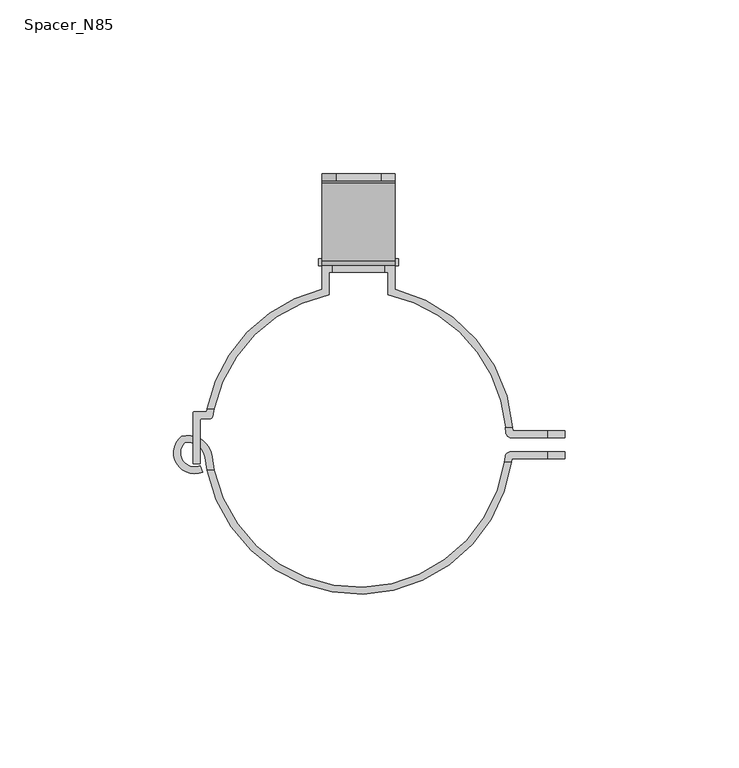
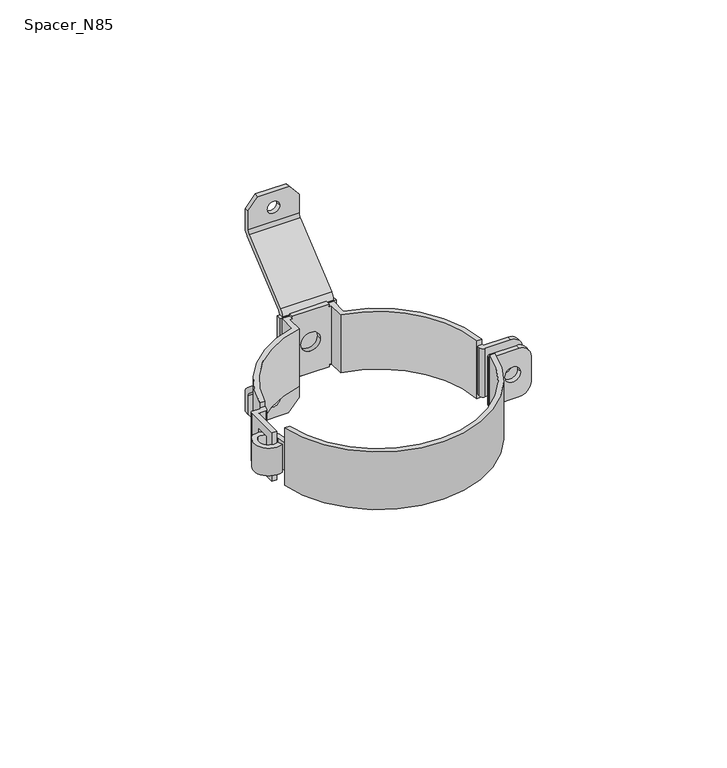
"""IFC4 building model written with IfcOpenShell, lengths in millimetres: proxy geometry, GROVIK_Downpipe_Bracket : Spacer_N85."""

import ifcopenshell
import ifcopenshell.guid

model = None  # the IFC model being written
_history = None  # IfcOwnerHistory: only IFC2X3 demands one
_inside = {}  # id of a spatial element -> (the spatial element, [elements in it])
_under = {}  # id of a project, library or spatial element -> (it, [spatial elements below it])
_declared = {}  # id of a project -> (the project, [libraries it declares])
_typed = {}  # id of a type object -> (the type object, [elements of that type])
_made_of = {}  # id of a material, layer set ... -> (it, [elements and type objects made of it])


def new_model(schema):
    """Start an empty IFC model of exactly this schema.

    Asked for "IFC4X3", IfcOpenShell would pick the latest addendum, in which some entities
    have other attributes; the version numbers below select the first issue.
    IFC2X3 requires an IfcOwnerHistory on every rooted entity: one is made here for all.
    """
    global model, _history
    if schema == "IFC4X3":
        model = ifcopenshell.file(schema_version=(4, 3, 0, 0))
    else:
        model = ifcopenshell.file(schema=schema)
    _inside.clear()
    _under.clear()
    _declared.clear()
    _typed.clear()
    _made_of.clear()
    _history = None
    if model.schema == "IFC2X3":
        org = make("IfcOrganization", Name="unknown")
        user = make(
            "IfcPersonAndOrganization",
            ThePerson=make("IfcPerson", FamilyName="unknown"),
            TheOrganization=org,
        )
        app = make(
            "IfcApplication",
            ApplicationDeveloper=org,
            Version="unknown",
            ApplicationFullName="unknown",
            ApplicationIdentifier="unknown",
        )
        _history = make(
            "IfcOwnerHistory",
            OwningUser=user,
            OwningApplication=app,
            ChangeAction="ADDED",
            CreationDate=0,
        )
    return model


def make(cls, **values):
    """One entity of the class cls with the attributes given. An attribute that is None is left unset."""
    return model.create_entity(
        cls, **{name: value for name, value in values.items() if value is not None}
    )


def rooted(cls, **values):
    """An entity with a GlobalId (a new one), such as an element, a storey or a relation."""
    return make(cls, GlobalId=ifcopenshell.guid.new(), OwnerHistory=_history, **values)


def si_unit(unit_type, name, prefix=None):
    """IfcSIUnit, for example si_unit("LENGTHUNIT", "METRE", prefix="MILLI")."""
    return make("IfcSIUnit", UnitType=unit_type, Prefix=prefix, Name=name)


def assignment(units):
    """IfcUnitAssignment: the units of a project."""
    return None if units is None else make("IfcUnitAssignment", Units=units)


def point(xyz):
    """IfcCartesianPoint."""
    return None if xyz is None else make("IfcCartesianPoint", Coordinates=xyz)


def direction(xyz):
    """IfcDirection."""
    return None if xyz is None else make("IfcDirection", DirectionRatios=xyz)


def frame(location, z_axis=None, x_axis=None):
    """IfcAxis2Placement3D, a coordinate frame: its origin and axes. An axis left out is left unset."""
    return make(
        "IfcAxis2Placement3D",
        Location=point(location),
        Axis=direction(z_axis),
        RefDirection=direction(x_axis),
    )


def origin():
    """The frame at (0, 0, 0) with its axes left unset."""
    return frame((0.0, 0.0, 0.0))


def origin_with_axes():
    """The frame at (0, 0, 0) with the z axis (0, 0, 1) and the x axis (1, 0, 0) written out."""
    return frame((0.0, 0.0, 0.0), z_axis=(0.0, 0.0, 1.0), x_axis=(1.0, 0.0, 0.0))


def place(relative_to, where):
    """IfcLocalPlacement: puts the frame where relative to a parent placement (None: the world)."""
    return make(
        "IfcLocalPlacement", PlacementRelTo=relative_to, RelativePlacement=where
    )


def context(
    kind, dimensions, precision=None, world=None, true_north=None, identifier=None
):
    """IfcGeometricRepresentationContext, for example the 3D "Model" context."""
    return make(
        "IfcGeometricRepresentationContext",
        ContextIdentifier=identifier,
        ContextType=kind,
        CoordinateSpaceDimension=dimensions,
        Precision=precision,
        WorldCoordinateSystem=world,
        TrueNorth=true_north,
    )


def project(units=None, contexts=None):
    """IfcProject with its units and contexts."""
    return rooted(
        "IfcProject",
        Name="project",
        RepresentationContexts=contexts,
        UnitsInContext=assignment(units),
    )


def spatial(cls, under=None, at=None, **own):
    """A site, building, storey or space (cls), placed at a placement, below another one or the project."""
    s = rooted(cls, ObjectPlacement=at, **own)
    if under is not None:
        _under.setdefault(under.id(), (under, []))[1].append(s)
    return s


def polyline(points):
    """IfcPolyline through the points."""
    return make("IfcPolyline", Points=[point(p) for p in points])


def circle_curve(where, radius):
    """IfcCircle in the frame where."""
    return make("IfcCircle", Position=where, Radius=radius)


def outline(outer, holes=None, kind="AREA"):
    """IfcArbitraryClosedProfileDef: a profile drawn as a closed curve; with holes, ...WithVoids."""
    if holes is None:
        return make("IfcArbitraryClosedProfileDef", ProfileType=kind, OuterCurve=outer)
    return make(
        "IfcArbitraryProfileDefWithVoids",
        ProfileType=kind,
        OuterCurve=outer,
        InnerCurves=holes,
    )


def extrude(swept, where, along, depth):
    """IfcExtrudedAreaSolid: the profile swept, set in the frame where, extruded along a direction by depth."""
    return make(
        "IfcExtrudedAreaSolid",
        SweptArea=swept,
        Position=where,
        ExtrudedDirection=direction(along),
        Depth=depth,
    )


def shape(context_of_items, identifier, shape_type, items):
    """IfcShapeRepresentation: the items that make up one representation, for example the "Body"."""
    return make(
        "IfcShapeRepresentation",
        ContextOfItems=context_of_items,
        RepresentationIdentifier=identifier,
        RepresentationType=shape_type,
        Items=items,
    )


def source(mapping_origin, context_of_items, identifier, shape_type, items):
    """IfcRepresentationMap: a shape defined once, which mapped items show again and again."""
    return make(
        "IfcRepresentationMap",
        MappingOrigin=mapping_origin,
        MappedRepresentation=shape(context_of_items, identifier, shape_type, items),
    )


def transform(
    local_origin,
    x_axis=None,
    y_axis=None,
    z_axis=None,
    scale=None,
    scale2=None,
    scale3=None,
    uniform=True,
):
    """IfcCartesianTransformationOperator3D, or its non-uniform kind. x_axis, y_axis, z_axis: its Axis1, 2, 3."""
    if uniform:
        return make(
            "IfcCartesianTransformationOperator3D",
            Axis1=direction(x_axis),
            Axis2=direction(y_axis),
            LocalOrigin=point(local_origin),
            Scale=scale,
            Axis3=direction(z_axis),
        )
    return make(
        "IfcCartesianTransformationOperator3DnonUniform",
        Axis1=direction(x_axis),
        Axis2=direction(y_axis),
        LocalOrigin=point(local_origin),
        Scale=scale,
        Axis3=direction(z_axis),
        Scale2=scale2,
        Scale3=scale3,
    )


def mapped(mapping_source, mapping_target):
    """IfcMappedItem: shows the shape of a source again, moved by a transform."""
    return make(
        "IfcMappedItem", MappingSource=mapping_source, MappingTarget=mapping_target
    )


def made_of(thing, what):
    """Note that an element or type object is made of a material, layer set ...; save() writes the relation."""
    if what is not None:
        _made_of.setdefault(what.id(), (what, []))[1].append(thing)
    return thing


def element(
    cls,
    number,
    at=None,
    inside=None,
    cuts=None,
    type_object=None,
    material=None,
    context=None,
    identifier="Body",
    shape_type=None,
    held_by="IfcProductDefinitionShape",
    body=None,
    shapes=None,
    **own,
):
    """One element of the class cls, such as IfcWall. Its Tag is "e" and its number.

    at: its placement. inside: the storey or other place that contains it. cuts: it is an
    opening in that element (IfcRelVoidsElement). A single representation is given by context,
    identifier, shape_type and body (its items); several are given by shapes. held_by: the class
    of the entity that holds the representations. save() writes the other relations.
    """
    e = rooted(cls, Tag="e%d" % number, ObjectPlacement=at, **own)
    if body is not None:
        shapes = [shape(context, identifier, shape_type, body)]
    if shapes is not None:
        e.Representation = make(held_by, Representations=shapes)
    if inside is not None:
        _inside.setdefault(inside.id(), (inside, []))[1].append(e)
    if cuts is not None:
        rooted(
            "IfcRelVoidsElement", RelatingBuildingElement=cuts, RelatedOpeningElement=e
        )
    if type_object is not None:
        _typed.setdefault(type_object.id(), (type_object, []))[1].append(e)
    return made_of(e, material)


def aggregate(whole, parts):
    """IfcRelAggregates: a whole, such as a stair, and the parts it consists of."""
    return rooted("IfcRelAggregates", RelatingObject=whole, RelatedObjects=parts)


def save(model, path):
    """Write the relations noted so far, then the file.

    IfcRelAggregates (storeys below a building ...), IfcRelContainedInSpatialStructure (elements
    in a storey), IfcRelDefinesByType, IfcRelAssociatesMaterial and IfcRelDeclares: one each for
    every whole, place, type object, material and project.
    """
    for whole, parts in _under.values():
        aggregate(whole, parts)
    for where, things in _inside.values():
        rooted(
            "IfcRelContainedInSpatialStructure",
            RelatedElements=things,
            RelatingStructure=where,
        )
    for kind, things in _typed.values():
        rooted("IfcRelDefinesByType", RelatedObjects=things, RelatingType=kind)
    for what, things in _made_of.values():
        rooted("IfcRelAssociatesMaterial", RelatedObjects=things, RelatingMaterial=what)
    for by, libraries in _declared.values():
        rooted("IfcRelDeclares", RelatingContext=by, RelatedDefinitions=libraries)
    model.write(path)


def plane_surface(at):
    """IfcPlane: the flat surface through the origin of the frame at, square to its z axis."""
    return make("IfcPlane", Position=at)


def cylinder_surface(at, radius):
    """IfcCylindricalSurface: all points at the distance radius from the z axis of the frame at."""
    return make("IfcCylindricalSurface", Position=at, Radius=radius)


def revolved_surface(curve, axis_point, axis_direction):
    """IfcSurfaceOfRevolution: the curve turned about the line through axis_point along axis_direction."""
    return make(
        "IfcSurfaceOfRevolution",
        SweptCurve=make("IfcArbitraryOpenProfileDef", ProfileType="CURVE", Curve=curve),
        AxisPosition=make("IfcAxis1Placement", Location=point(axis_point), Axis=direction(axis_direction)),
    )


def advanced_brep(points, edges, surfaces, faces):
    """IfcAdvancedBrep: a solid bounded by faces that lie on surfaces and meet in shared edges.

    An edge is (start, end): straight between two places in points (the first is 0);
    or (start, end, curve); or (start, end, curve, False) where it runs against its curve.
    A face is (place in surfaces, loops), or (place, loops, False) where it looks against
    its surface's normal. A loop lists edges by number (the first is 1), with a minus sign
    where the edge is run from its end to its start. The first loop is the outer one.
    """
    corners = [point(p) for p in points]
    vertices = [make("IfcVertexPoint", VertexGeometry=c) for c in corners]
    made = []
    for start, end, *more in edges:
        made.append(
            make(
                "IfcEdgeCurve",
                EdgeStart=vertices[start],
                EdgeEnd=vertices[end],
                EdgeGeometry=more[0] if more else make("IfcPolyline", Points=[corners[start], corners[end]]),
                SameSense=more[1] if len(more) > 1 else True,
            )
        )
    hull = []
    for where, loops, *sense in faces:
        bounds = []
        for j, loop in enumerate(loops):
            ring = [make("IfcOrientedEdge", EdgeElement=made[abs(k) - 1], Orientation=k > 0) for k in loop]
            bounds.append(
                make(
                    "IfcFaceOuterBound" if j == 0 else "IfcFaceBound",
                    Bound=make("IfcEdgeLoop", EdgeList=ring),
                    Orientation=True,
                )
            )
        hull.append(make("IfcAdvancedFace", Bounds=bounds, FaceSurface=surfaces[where], SameSense=sense[0] if sense else True))
    return make("IfcAdvancedBrep", Outer=make("IfcClosedShell", CfsFaces=hull))


def spacer_n85_8d13b293(model_context):
    return source(origin(), model_context, "Body", "SolidModel", [
        advanced_brep(
        [(-41.5674924, -8.8540146, 12.5), (-43.6102789, -8.8540146, 12.5), (44.0306629, -6.4459854, 12.5), (42.0083238, -6.4459854, 12.5), (-41.5674924, -8.8540146, -12.5), (42.0083238, -6.4459854, -12.5), (44.0306629, -6.4459854, -12.5), (-43.6102789, -8.8540146, -12.5)],
        [
            (0, 1),
            (1, 2, circle_curve(frame((0.0, 0.0, 12.5), z_axis=(0.0, 0.0, 1.0), x_axis=(1.0, 0.0, 0.0)), 44.5)),
            (2, 3),
            (3, 0, circle_curve(frame((0.0, 0.0, 12.5), z_axis=(0.0, 0.0, -1.0), x_axis=(1.0, 0.0, 0.0)), 42.5)),
            (4, 5, circle_curve(frame((0.0, 0.0, -12.5), z_axis=(0.0, 0.0, 1.0), x_axis=(1.0, 0.0, 0.0)), 42.5)),
            (5, 6),
            (6, 7, circle_curve(frame((0.0, 0.0, -12.5), z_axis=(0.0, 0.0, -1.0), x_axis=(1.0, 0.0, 0.0)), 44.5)),
            (7, 4),
            (0, 4),
            (7, 1),
            (6, 2),
            (5, 3),
        ],
        [
            plane_surface(frame((-41.5674924, -8.8540146, 12.5), z_axis=(0.0, 0.0, 1.0), x_axis=(-1.0, 0.0, 0.0))),
            plane_surface(frame((-41.5674924, -8.8540146, -12.5), z_axis=(0.0, 0.0, -1.0), x_axis=(1.0, 0.0, 0.0))),
            plane_surface(frame((-41.5674924, -8.8540146, 12.5), z_axis=(0.0, 1.0, 0.0), x_axis=(0.0, 0.0, -1.0))),
            cylinder_surface(frame((0.0, 0.0, -12.5), z_axis=(0.0, 0.0, 1.0), x_axis=(1.0, 0.0, 0.0)), 44.5),
            plane_surface(frame((44.0306629, -6.4459854, 12.5), z_axis=(0.0, 1.0, 0.0), x_axis=(0.0, 0.0, -1.0))),
            revolved_surface(polyline([(42.5, 0.0, -12.5), (42.5, 0.0, 12.5)]), (0.0, 0.0, -12.5), (0.0, 0.0, -1.0)),
        ],
        [
            (0, [[1, 2, 3, 4]]),
            (1, [[5, 6, 7, 8]]),
            (2, [[-1, 9, -8, 10]]),
            (3, [[-2, -10, -7, 11]]),
            (4, [[-3, -11, -6, 12]]),
            (5, [[-4, -12, -5, -9]]),
        ],
    ),
        advanced_brep(
        [(-8.5, 41.6413256, 12.5), (-8.5, 48.1, 12.5), (-7.5, 48.1, 12.5), (-7.5, 50.1, 12.5), (-10.5, 50.1, 12.5), (-10.5, 43.2434966, 12.5), (-43.6102789, 8.8540146, 12.5), (-41.5674924, 8.8540146, 12.5), (8.5, 48.1, 12.5), (8.5, 41.6413256, 12.5), (42.3511391, 3.5540146, 12.5), (44.3578514, 3.5540146, 12.5), (10.5, 43.2434966, 12.5), (10.5, 50.1, 12.5), (7.5, 50.1, 12.5), (7.5, 48.1, 12.5), (-8.5, 41.6413256, -12.5), (-41.5674924, 8.8540146, -12.5), (-43.6102789, 8.8540146, -12.5), (-10.5, 43.2434966, -12.5), (-10.5, 50.1, -12.5), (-7.5, 50.1, -12.5), (-7.5, 48.1, -12.5), (-8.5, 48.1, -12.5), (10.5, 50.1, -12.5), (10.5, 43.2434966, -12.5), (44.3578514, 3.5540146, -12.5), (42.3511391, 3.5540146, -12.5), (8.5, 41.6413256, -12.5), (8.5, 48.1, -12.5), (7.5, 48.1, -12.5), (7.5, 50.1, -12.5), (-7.5, 48.1, -13.4422023), (7.5, 48.1, -13.4422023), (7.5, 48.1, 13.5577977), (-7.5, 48.1, 13.5577977), (-4.0, 48.1, 0.0), (4.0, 48.1, 0.0), (7.5, 50.1, -13.4422023), (-7.5, 50.1, -13.4422023), (-7.5, 50.1, 13.5577977), (7.5, 50.1, 13.5577977), (4.0, 50.1, 0.0), (-4.0, 50.1, 0.0)],
        [
            (0, 1),
            (1, 2),
            (2, 3),
            (3, 4),
            (4, 5),
            (5, 6, circle_curve(frame((0.0, 0.0, 12.5), z_axis=(0.0, 0.0, 1.0), x_axis=(1.0, 0.0, 0.0)), 44.5)),
            (6, 7),
            (7, 0, circle_curve(frame((0.0, 0.0, 12.5), z_axis=(0.0, 0.0, -1.0), x_axis=(1.0, 0.0, 0.0)), 42.5)),
            (8, 9),
            (9, 10, circle_curve(frame((0.0, 0.0, 12.5), z_axis=(0.0, 0.0, -1.0), x_axis=(1.0, 0.0, 0.0)), 42.5)),
            (10, 11),
            (11, 12, circle_curve(frame((0.0, 0.0, 12.5), z_axis=(0.0, 0.0, 1.0), x_axis=(1.0, 0.0, 0.0)), 44.5)),
            (12, 13),
            (13, 14),
            (14, 15),
            (15, 8),
            (16, 17, circle_curve(frame((0.0, 0.0, -12.5), z_axis=(0.0, 0.0, 1.0), x_axis=(1.0, 0.0, 0.0)), 42.5)),
            (17, 18),
            (18, 19, circle_curve(frame((0.0, 0.0, -12.5), z_axis=(0.0, 0.0, -1.0), x_axis=(1.0, 0.0, 0.0)), 44.5)),
            (19, 20),
            (20, 21),
            (21, 22),
            (22, 23),
            (23, 16),
            (24, 25),
            (25, 26, circle_curve(frame((0.0, 0.0, -12.5), z_axis=(0.0, 0.0, -1.0), x_axis=(1.0, 0.0, 0.0)), 44.5)),
            (26, 27),
            (27, 28, circle_curve(frame((0.0, 0.0, -12.5), z_axis=(0.0, 0.0, 1.0), x_axis=(1.0, 0.0, 0.0)), 42.5)),
            (28, 29),
            (29, 30),
            (30, 31),
            (31, 24),
            (10, 27),
            (26, 11),
            (5, 19),
            (18, 6),
            (17, 7),
            (16, 0),
            (23, 1),
            (22, 32),
            (32, 33),
            (33, 30),
            (29, 8),
            (15, 34),
            (34, 35),
            (35, 2),
            (36, 37, circle_curve(frame((0.0, 48.1, 0.0), z_axis=(0.0, 1.0, 0.0), x_axis=(-1.0, 0.0, 0.0)), 4.0)),
            (37, 36, circle_curve(frame((0.0, 48.1, 0.0), z_axis=(0.0, 1.0, 0.0), x_axis=(-1.0, 0.0, 0.0)), 4.0)),
            (28, 9),
            (25, 12),
            (24, 13),
            (31, 38),
            (38, 39),
            (39, 21),
            (20, 4),
            (3, 40),
            (40, 41),
            (41, 14),
            (42, 43, circle_curve(frame((0.0, 50.1, 0.0), z_axis=(0.0, -1.0, 0.0), x_axis=(-1.0, 0.0, 0.0)), 4.0)),
            (43, 42, circle_curve(frame((0.0, 50.1, 0.0), z_axis=(0.0, -1.0, 0.0), x_axis=(-1.0, 0.0, 0.0)), 4.0)),
            (42, 37),
            (36, 43),
            (34, 41),
            (40, 35),
            (33, 38),
            (39, 32),
        ],
        [
            plane_surface(frame((-41.5674924, -8.8540146, 12.5), z_axis=(0.0, 0.0, 1.0), x_axis=(-1.0, 0.0, 0.0))),
            plane_surface(frame((-41.5674924, -8.8540146, -12.5), z_axis=(0.0, 0.0, -1.0), x_axis=(1.0, 0.0, 0.0))),
            plane_surface(frame((42.3511391, 3.5540146, 12.5), z_axis=(0.0, -1.0, 0.0), x_axis=(0.0, 0.0, -1.0))),
            cylinder_surface(origin_with_axes(), 44.5),
            plane_surface(frame((-43.6102789, 8.8540146, 12.5), z_axis=(0.0, -1.0, 0.0), x_axis=(0.0, 0.0, -1.0))),
            revolved_surface(polyline([(42.5, 0.0, -12.5), (42.5, 0.0, 12.5)]), (0.0, 0.0, 0.0), (0.0, 0.0, -1.0)),
            plane_surface(frame((-8.5, 41.6413256, 12.5), z_axis=(1.0, 0.0, 0.0), x_axis=(0.0, 0.0, -1.0))),
            plane_surface(frame((-8.5, 48.1, 12.5), z_axis=(0.0, -1.0, 0.0), x_axis=(0.0, 0.0, -1.0))),
            plane_surface(frame((8.5, 48.1, 12.5), z_axis=(-1.0, 0.0, 0.0), x_axis=(0.0, 0.0, -1.0))),
            plane_surface(frame((10.5, 43.2434966, 12.5), z_axis=(1.0, 0.0, 0.0), x_axis=(0.0, 0.0, -1.0))),
            plane_surface(frame((10.5, 50.1, 12.5), z_axis=(0.0, 1.0, 0.0), x_axis=(0.0, 0.0, -1.0))),
            plane_surface(frame((-10.5, 50.1, 12.5), z_axis=(-1.0, 0.0, 0.0), x_axis=(0.0, 0.0, -1.0))),
            revolved_surface(polyline([(-4.0, 50.1, 0.0), (-4.0, 48.1, 0.0)]), (0.0, 48.1, 0.0), (0.0, 1.0, 0.0)),
            plane_surface(frame((7.5, 48.1, 13.5577977), z_axis=(0.0, 0.0, 1.0), x_axis=(0.0, 1.0, 0.0))),
            plane_surface(frame((-7.5, 48.1, 13.5577977), z_axis=(-1.0, 0.0, 0.0), x_axis=(0.0, 1.0, 0.0))),
            plane_surface(frame((7.5, 48.1, 12.5), z_axis=(1.0, 0.0, 0.0), x_axis=(0.0, 1.0, 0.0))),
            plane_surface(frame((7.5, 48.1, -13.4422023), z_axis=(1.0, 0.0, 0.0), x_axis=(0.0, 1.0, 0.0))),
            plane_surface(frame((-7.5, 48.1, -12.5), z_axis=(-1.0, 0.0, 0.0), x_axis=(0.0, 1.0, 0.0))),
            plane_surface(frame((-7.5, 48.1, -13.4422023), z_axis=(0.0, 0.0, -1.0), x_axis=(0.0, 1.0, 0.0))),
        ],
        [
            (0, [[1, 2, 3, 4, 5, 6, 7, 8]]),
            (0, [[9, 10, 11, 12, 13, 14, 15, 16]]),
            (1, [[17, 18, 19, 20, 21, 22, 23, 24]]),
            (1, [[25, 26, 27, 28, 29, 30, 31, 32]]),
            (2, [[-11, 33, -27, 34]]),
            (3, [[-6, 35, -19, 36]]),
            (4, [[-7, -36, -18, 37]]),
            (5, [[-8, -37, -17, 38]]),
            (6, [[-1, -38, -24, 39]]),
            (7, [[-39, -23, 40, 41, 42, -30, 43, -16, 44, 45, 46, -2], [47, 48]]),
            (8, [[-9, -43, -29, 49]]),
            (5, [[-10, -49, -28, -33]]),
            (3, [[-12, -34, -26, 50]]),
            (9, [[-13, -50, -25, 51]]),
            (10, [[-51, -32, 52, 53, 54, -21, 55, -4, 56, 57, 58, -14], [59, 60]]),
            (11, [[-5, -55, -20, -35]]),
            (12, [[61, -47, 62, -59]]),
            (12, [[-61, -60, -62, -48]]),
            (13, [[-45, 63, -57, 64]]),
            (14, [[-46, -64, -56, -3]]),
            (15, [[-44, -15, -58, -63]]),
            (16, [[-42, 65, -52, -31]]),
            (17, [[-40, -22, -54, 66]]),
            (18, [[-41, -66, -53, -65]]),
        ],
    ),
        advanced_brep(
        [(-45.7025365, -6.9459854, 10.5577977), (-45.7025365, 5.5540146, 10.5577977), (-45.2025365, 6.0540146, 10.5577977), (-42.6619767, 6.0540146, 10.5577977), (-42.0921477, 6.5258716, 10.5577977), (-41.5674924, 8.8540146, 10.5577977), (-43.6102789, 8.8540146, 10.5577977), (-43.7650871, 8.0540146, 10.5577977), (-47.1625365, 8.0540146, 10.5577977), (-47.7025365, 7.5140146, 10.5577977), (-47.7025365, -6.9459854, 10.5577977), (-45.7025365, -6.9459854, -10.4422023), (-47.7025365, -6.9459854, -10.4422023), (-47.7025365, 7.5140146, -10.4422023), (-47.1625365, 8.0540146, -10.4422023), (-43.7650871, 8.0540146, -10.4422023), (-43.6102789, 8.8540146, -10.4422023), (-41.5674924, 8.8540146, -10.4422023), (-42.0921477, 6.5258716, -10.4422023), (-42.6619767, 6.0540146, -10.4422023), (-45.2025365, 6.0540146, -10.4422023), (-45.7025365, 5.5540146, -10.4422023), (-45.7025365, -2.9459854, 6.5577977), (-45.7025365, 2.5540146, 6.5577977), (-45.7025365, 2.5540146, -6.4422023), (-45.7025365, -2.9459854, -6.4422023), (-47.7025365, 2.5540146, 6.5577977), (-47.7025365, -2.9459854, 6.5577977), (-47.7025365, -2.9459854, -6.4422023), (-47.7025365, 2.5540146, -6.4422023)],
        [
            (0, 1),
            (1, 2, circle_curve(frame((-45.2025365, 5.5540146, 10.5577977), z_axis=(0.0, 0.0, -1.0), x_axis=(1.0, 0.0, 0.0)), 0.5)),
            (2, 3),
            (3, 4, circle_curve(frame((-42.6619767, 6.6340146, 10.5577977), z_axis=(0.0, 0.0, 1.0), x_axis=(1.0, 0.0, 0.0)), 0.58)),
            (4, 5, circle_curve(frame((-7.705915, 0.0, 10.5577977), z_axis=(0.0, 0.0, -1.0), x_axis=(1.0, 0.0, 0.0)), 35.0)),
            (5, 6),
            (6, 7, circle_curve(frame((0.0, 0.0, 10.5577977), z_axis=(0.0, 0.0, 1.0), x_axis=(1.0, 0.0, 0.0)), 44.5)),
            (7, 8),
            (8, 9, circle_curve(frame((-47.1625365, 7.5140146, 10.5577977), z_axis=(0.0, 0.0, 1.0), x_axis=(1.0, 0.0, 0.0)), 0.54)),
            (9, 10),
            (10, 0),
            (11, 12),
            (12, 13),
            (13, 14, circle_curve(frame((-47.1625365, 7.5140146, -10.4422023), z_axis=(0.0, 0.0, -1.0), x_axis=(1.0, 0.0, 0.0)), 0.54)),
            (14, 15),
            (15, 16, circle_curve(frame((0.0, 0.0, -10.4422023), z_axis=(0.0, 0.0, -1.0), x_axis=(1.0, 0.0, 0.0)), 44.5)),
            (16, 17),
            (17, 18, circle_curve(frame((-7.705915, 0.0, -10.4422023), z_axis=(0.0, 0.0, 1.0), x_axis=(1.0, 0.0, 0.0)), 35.0)),
            (18, 19, circle_curve(frame((-42.6619767, 6.6340146, -10.4422023), z_axis=(0.0, 0.0, -1.0), x_axis=(1.0, 0.0, 0.0)), 0.58)),
            (19, 20),
            (20, 21, circle_curve(frame((-45.2025365, 5.5540146, -10.4422023), z_axis=(0.0, 0.0, 1.0), x_axis=(1.0, 0.0, 0.0)), 0.5)),
            (21, 11),
            (0, 11),
            (21, 1),
            (22, 23),
            (23, 24),
            (24, 25),
            (25, 22),
            (20, 2),
            (19, 3),
            (18, 4),
            (17, 5),
            (16, 6),
            (7, 15),
            (14, 8),
            (13, 9),
            (12, 10),
            (26, 27),
            (27, 28),
            (28, 29),
            (29, 26),
            (26, 23),
            (22, 27),
            (29, 24),
            (28, 25),
        ],
        [
            plane_surface(frame((-45.7025365, -6.9459854, 10.5577977), z_axis=(0.0, 0.0, 1.0), x_axis=(0.0, 1.0, 0.0))),
            plane_surface(frame((-45.7025365, -6.9459854, -10.4422023), z_axis=(0.0, 0.0, -1.0), x_axis=(0.0, -1.0, 0.0))),
            plane_surface(frame((-45.7025365, -6.9459854, 10.5577977), z_axis=(1.0, 0.0, 0.0), x_axis=(0.0, 0.0, -1.0))),
            revolved_surface(polyline([(-44.7025365, 5.5540146, -10.4422023), (-44.7025365, 5.5540146, 10.5577977)]), (-45.2025365, 5.5540146, -10.4422023), (0.0, 0.0, -1.0)),
            plane_surface(frame((-45.2025365, 6.0540146, 10.5577977), z_axis=(0.0, -1.0, 0.0), x_axis=(0.0, 0.0, -1.0))),
            cylinder_surface(frame((-42.6619767, 6.6340146, -10.4422023), z_axis=(0.0, 0.0, 1.0), x_axis=(1.0, 0.0, 0.0)), 0.58),
            revolved_surface(polyline([(27.294085, 0.0, -10.4422023), (27.294085, 0.0, 10.5577977)]), (-7.705915, 0.0, -10.4422023), (0.0, 0.0, -1.0)),
            plane_surface(frame((-41.5674924, 8.8540146, 10.5577977), z_axis=(0.0, 1.0, 0.0), x_axis=(0.0, 0.0, -1.0))),
            plane_surface(frame((-43.7650871, 8.0540146, 10.5577977), z_axis=(0.0, 1.0, 0.0), x_axis=(0.0, 0.0, -1.0))),
            cylinder_surface(frame((-47.1625365, 7.5140146, -10.4422023), z_axis=(0.0, 0.0, 1.0), x_axis=(1.0, 0.0, 0.0)), 0.54),
            plane_surface(frame((-47.7025365, 7.5140146, 10.5577977), z_axis=(-1.0, 0.0, 0.0), x_axis=(0.0, 0.0, -1.0))),
            plane_surface(frame((-47.7025365, -6.9459854, 10.5577977), z_axis=(0.0, -1.0, 0.0), x_axis=(0.0, 0.0, -1.0))),
            plane_surface(frame((-47.7025365, -2.9459854, 6.5577977), z_axis=(0.0, 0.0, -1.0), x_axis=(1.0, 0.0, 0.0))),
            plane_surface(frame((-47.7025365, 2.5540146, 6.5577977), z_axis=(0.0, -1.0, 0.0), x_axis=(1.0, 0.0, 0.0))),
            plane_surface(frame((-47.7025365, 2.5540146, -6.4422023), z_axis=(0.0, 0.0, 1.0), x_axis=(1.0, 0.0, 0.0))),
            plane_surface(frame((-47.7025365, -2.9459854, -6.4422023), z_axis=(0.0, 1.0, 0.0), x_axis=(1.0, 0.0, 0.0))),
            cylinder_surface(frame((0.0, 0.0, -10.4422023), z_axis=(0.0, 0.0, 1.0), x_axis=(1.0, 0.0, 0.0)), 44.5),
        ],
        [
            (0, [[1, 2, 3, 4, 5, 6, 7, 8, 9, 10, 11]]),
            (1, [[12, 13, 14, 15, 16, 17, 18, 19, 20, 21, 22]]),
            (2, [[-1, 23, -22, 24], [25, 26, 27, 28]]),
            (3, [[-2, -24, -21, 29]]),
            (4, [[-3, -29, -20, 30]]),
            (5, [[-4, -30, -19, 31]]),
            (6, [[-5, -31, -18, 32]]),
            (7, [[-6, -32, -17, 33]]),
            (8, [[-8, 34, -15, 35]]),
            (9, [[-9, -35, -14, 36]]),
            (10, [[-10, -36, -13, 37], [38, 39, 40, 41]]),
            (11, [[-11, -37, -12, -23]]),
            (12, [[42, -25, 43, -38]]),
            (13, [[-42, -41, 44, -26]]),
            (14, [[-44, -40, 45, -27]]),
            (15, [[-43, -28, -45, -39]]),
            (16, [[-7, -33, -16, -34]]),
        ],
    ),
        advanced_brep(
        [(43.898905, -3.4459854, 10.5), (42.2156998, -4.9076155, 10.5), (42.0083238, -6.4459854, 10.5), (44.0306629, -6.4459854, 10.5), (44.1654983, -5.4459854, 10.5), (54.4154439, -5.4459854, 10.5), (54.4154439, -3.4459854, 10.5), (44.1654983, -5.4459854, -10.5), (44.0306629, -6.4459854, -10.5), (42.0083238, -6.4459854, -10.5), (42.2156998, -4.9076155, -10.5), (43.898905, -3.4459854, -10.5), (54.4154439, -3.4459854, -10.5), (54.4154439, -5.4459854, -10.5), (59.4154439, -3.4459854, 5.5), (59.4154439, -3.4459854, -5.5), (48.7, -3.4459854, 0.0), (55.1, -3.4459854, 0.0), (59.4154439, -5.4459854, -5.5), (59.4154439, -5.4459854, 5.5), (55.1, -5.4459854, 0.0), (48.7, -5.4459854, 0.0)],
        [
            (0, 1, circle_curve(frame((43.898905, -5.1459854, 10.5), z_axis=(0.0, 0.0, 1.0), x_axis=(1.0, 0.0, 0.0)), 1.7)),
            (1, 2, circle_curve(frame((0.0, 0.0, 10.5), z_axis=(0.0, 0.0, -1.0), x_axis=(1.0, 0.0, 0.0)), 42.5)),
            (2, 3),
            (3, 4, circle_curve(frame((0.0, 0.0, 10.5), z_axis=(0.0, 0.0, 1.0), x_axis=(1.0, 0.0, 0.0)), 44.5)),
            (4, 5),
            (5, 6),
            (6, 0),
            (7, 8, circle_curve(frame((0.0, 0.0, -10.5), z_axis=(0.0, 0.0, -1.0), x_axis=(1.0, 0.0, 0.0)), 44.5)),
            (8, 9),
            (9, 10, circle_curve(frame((0.0, 0.0, -10.5), z_axis=(0.0, 0.0, 1.0), x_axis=(1.0, 0.0, 0.0)), 42.5)),
            (10, 11, circle_curve(frame((43.898905, -5.1459854, -10.5), z_axis=(0.0, 0.0, -1.0), x_axis=(1.0, 0.0, 0.0)), 1.7)),
            (11, 12),
            (12, 13),
            (13, 7),
            (11, 0),
            (6, 14, circle_curve(frame((54.4154439, -3.4459854, 5.5), z_axis=(0.0, 1.0, 0.0), x_axis=(1.0, 0.0, 0.0)), 5.0)),
            (14, 15),
            (15, 12, circle_curve(frame((54.4154439, -3.4459854, -5.5), z_axis=(0.0, 1.0, 0.0), x_axis=(1.0, 0.0, 0.0)), 5.0)),
            (16, 17, circle_curve(frame((51.9, -3.4459854, 0.0), z_axis=(0.0, -1.0, 0.0), x_axis=(1.0, 0.0, 0.0)), 3.2)),
            (17, 16, circle_curve(frame((51.9, -3.4459854, 0.0), z_axis=(0.0, -1.0, 0.0), x_axis=(1.0, 0.0, 0.0)), 3.2)),
            (10, 1),
            (2, 9),
            (8, 3),
            (4, 7),
            (13, 18, circle_curve(frame((54.4154439, -5.4459854, -5.5), z_axis=(0.0, -1.0, 0.0), x_axis=(1.0, 0.0, 0.0)), 5.0)),
            (18, 19),
            (19, 5, circle_curve(frame((54.4154439, -5.4459854, 5.5), z_axis=(0.0, -1.0, 0.0), x_axis=(1.0, 0.0, 0.0)), 5.0)),
            (20, 21, circle_curve(frame((51.9, -5.4459854, 0.0), z_axis=(0.0, 1.0, 0.0), x_axis=(1.0, 0.0, 0.0)), 3.2)),
            (21, 20, circle_curve(frame((51.9, -5.4459854, 0.0), z_axis=(0.0, 1.0, 0.0), x_axis=(1.0, 0.0, 0.0)), 3.2)),
            (14, 19),
            (18, 15),
            (16, 21),
            (20, 17),
        ],
        [
            plane_surface(frame((59.4154439, 0.5727617, 10.5), z_axis=(0.0, 0.0, 1.0), x_axis=(0.0, 1.0, 0.0))),
            plane_surface(frame((59.4154439, 0.5727617, -10.5), z_axis=(0.0, 0.0, -1.0), x_axis=(0.0, -1.0, 0.0))),
            plane_surface(frame((59.4154439, -3.4459854, 10.5), z_axis=(0.0, 1.0, 0.0), x_axis=(0.0, 0.0, -1.0))),
            cylinder_surface(frame((43.898905, -5.1459854, 0.0), z_axis=(0.0, 0.0, 1.0), x_axis=(1.0, 0.0, 0.0)), 1.7),
            plane_surface(frame((42.0083238, -6.4459854, 10.5), z_axis=(0.0, -1.0, 0.0), x_axis=(0.0, 0.0, -1.0))),
            plane_surface(frame((44.1654983, -5.4459854, 10.5), z_axis=(0.0, -1.0, 0.0), x_axis=(0.0, 0.0, -1.0))),
            plane_surface(frame((59.4154439, -5.4459854, 10.5), z_axis=(1.0, 0.0, 0.0), x_axis=(0.0, 0.0, -1.0))),
            revolved_surface(polyline([(55.1, -5.4459854, 0.0), (55.1, -3.4459854, 0.0)]), (51.9, 2.5540146, 0.0), (0.0, -1.0, 0.0)),
            cylinder_surface(frame((54.4154439, 0.0, 5.5), z_axis=(0.0, 1.0, 0.0), x_axis=(1.0, 0.0, 0.0)), 5.0),
            cylinder_surface(frame((54.4154439, 0.0, -5.5), z_axis=(0.0, 1.0, 0.0), x_axis=(1.0, 0.0, 0.0)), 5.0),
            revolved_surface(polyline([(42.5, 0.0, -10.5), (42.5, 0.0, 10.5)]), (0.0, 0.0, 0.0), (0.0, 0.0, -1.0)),
            cylinder_surface(origin_with_axes(), 44.5),
        ],
        [
            (0, [[1, 2, 3, 4, 5, 6, 7]]),
            (1, [[8, 9, 10, 11, 12, 13, 14]]),
            (2, [[15, -7, 16, 17, 18, -12], [19, 20]]),
            (3, [[-1, -15, -11, 21]]),
            (4, [[-3, 22, -9, 23]]),
            (5, [[24, -14, 25, 26, 27, -5], [28, 29]]),
            (6, [[-17, 30, -26, 31]]),
            (7, [[32, -28, 33, -19]]),
            (7, [[-32, -20, -33, -29]]),
            (8, [[-6, -27, -30, -16]]),
            (9, [[-13, -18, -31, -25]]),
            (10, [[-2, -21, -10, -22]]),
            (11, [[-4, -23, -8, -24]]),
        ],
    ),
        advanced_brep(
        [(44.4266475, 2.5540146, 10.5), (44.3579287, 3.5530492, 10.5), (42.3396142, 3.5530492, 10.5), (42.440526, 2.0499936, 10.5), (43.9177579, 0.5727617, 10.5), (54.4154439, 0.5727617, 10.5), (54.4154439, 2.5540146, 10.5), (43.9177579, 0.5727617, -10.5), (42.440526, 2.0499936, -10.5), (42.3396142, 3.5530492, -10.5), (44.3579287, 3.5530492, -10.5), (44.4266475, 2.5540146, -10.5), (54.4154439, 2.5540146, -10.5), (54.4154439, 0.5727617, -10.5), (59.4154439, 0.5727617, 5.5), (59.4154439, 0.5727617, -5.5), (59.4154439, 2.5540146, -5.5), (59.4154439, 2.5540146, 5.5), (48.7, 2.5540146, 0.0), (55.1, 2.5540146, 0.0), (55.1, 0.5727617, 0.0), (48.7, 0.5727617, 0.0)],
        [
            (0, 1, circle_curve(frame((0.0, 0.0, 10.5), z_axis=(0.0, 0.0, 1.0), x_axis=(1.0, 0.0, 0.0)), 44.5)),
            (1, 2),
            (2, 3, circle_curve(frame((-0.0027908, -0.0446391, 10.5), z_axis=(0.0, 0.0, -1.0), x_axis=(1.0, 0.0, 0.0)), 42.4949718)),
            (3, 4, circle_curve(frame((43.9177579, 2.0499936, 10.5), z_axis=(0.0, 0.0, 1.0), x_axis=(1.0, 0.0, 0.0)), 1.477232)),
            (4, 5),
            (5, 6),
            (6, 0),
            (7, 8, circle_curve(frame((43.9177579, 2.0499936, -10.5), z_axis=(0.0, 0.0, -1.0), x_axis=(1.0, 0.0, 0.0)), 1.477232)),
            (8, 9, circle_curve(frame((-0.0027908, -0.0446391, -10.5), z_axis=(0.0, 0.0, 1.0), x_axis=(1.0, 0.0, 0.0)), 42.4949718)),
            (9, 10),
            (10, 11, circle_curve(frame((0.0, 0.0, -10.5), z_axis=(0.0, 0.0, -1.0), x_axis=(1.0, 0.0, 0.0)), 44.5)),
            (11, 12),
            (12, 13),
            (13, 7),
            (14, 15),
            (15, 16),
            (16, 17),
            (17, 14),
            (11, 0),
            (6, 17, circle_curve(frame((54.4154439, 2.5540146, 5.5), z_axis=(0.0, 1.0, 0.0), x_axis=(1.0, 0.0, 0.0)), 5.0)),
            (16, 12, circle_curve(frame((54.4154439, 2.5540146, -5.5), z_axis=(0.0, 1.0, 0.0), x_axis=(1.0, 0.0, 0.0)), 5.0)),
            (18, 19, circle_curve(frame((51.9, 2.5540146, 0.0), z_axis=(0.0, -1.0, 0.0), x_axis=(1.0, 0.0, 0.0)), 3.2)),
            (19, 18, circle_curve(frame((51.9, 2.5540146, 0.0), z_axis=(0.0, -1.0, 0.0), x_axis=(1.0, 0.0, 0.0)), 3.2)),
            (1, 10),
            (9, 2),
            (3, 8),
            (7, 4),
            (13, 15, circle_curve(frame((54.4154439, 0.5727617, -5.5), z_axis=(0.0, -1.0, 0.0), x_axis=(1.0, 0.0, 0.0)), 5.0)),
            (14, 5, circle_curve(frame((54.4154439, 0.5727617, 5.5), z_axis=(0.0, -1.0, 0.0), x_axis=(1.0, 0.0, 0.0)), 5.0)),
            (20, 21, circle_curve(frame((51.9, 0.5727617, 0.0), z_axis=(0.0, 1.0, 0.0), x_axis=(1.0, 0.0, 0.0)), 3.2)),
            (21, 20, circle_curve(frame((51.9, 0.5727617, 0.0), z_axis=(0.0, 1.0, 0.0), x_axis=(1.0, 0.0, 0.0)), 3.2)),
            (18, 21),
            (20, 19),
        ],
        [
            plane_surface(frame((59.4154439, 0.5727617, 10.5), z_axis=(0.0, 0.0, 1.0), x_axis=(0.0, 1.0, 0.0))),
            plane_surface(frame((59.4154439, 0.5727617, -10.5), z_axis=(0.0, 0.0, -1.0), x_axis=(0.0, -1.0, 0.0))),
            plane_surface(frame((59.4154439, 0.5727617, 10.5), z_axis=(1.0, 0.0, 0.0), x_axis=(0.0, 0.0, -1.0))),
            plane_surface(frame((59.4154439, 2.5540146, 10.5), z_axis=(0.0, 1.0, 0.0), x_axis=(0.0, 0.0, -1.0))),
            plane_surface(frame((44.3579287, 3.5530492, 10.5), z_axis=(0.0, 1.0, 0.0), x_axis=(0.0, 0.0, -1.0))),
            cylinder_surface(frame((43.9177579, 2.0499936, -10.5), z_axis=(0.0, 0.0, 1.0), x_axis=(1.0, 0.0, 0.0)), 1.477232),
            plane_surface(frame((43.9177579, 0.5727617, 10.5), z_axis=(0.0, -1.0, 0.0), x_axis=(0.0, 0.0, -1.0))),
            revolved_surface(polyline([(55.1, 0.5727617, 0.0), (55.1, 2.5540146, 0.0)]), (51.9, 2.5540146, 0.0), (0.0, -1.0, 0.0)),
            cylinder_surface(frame((54.4154439, 0.0, 5.5), z_axis=(0.0, 1.0, 0.0), x_axis=(1.0, 0.0, 0.0)), 5.0),
            cylinder_surface(frame((54.4154439, 0.0, -5.5), z_axis=(0.0, 1.0, 0.0), x_axis=(1.0, 0.0, 0.0)), 5.0),
            cylinder_surface(frame((0.0, 0.0, -10.5), z_axis=(0.0, 0.0, 1.0), x_axis=(1.0, 0.0, 0.0)), 44.5),
            revolved_surface(polyline([(42.492181, -0.0446391, -10.5), (42.492181, -0.0446391, 10.5)]), (-0.0027908, -0.0446391, -10.5), (0.0, 0.0, -1.0)),
        ],
        [
            (0, [[1, 2, 3, 4, 5, 6, 7]]),
            (1, [[8, 9, 10, 11, 12, 13, 14]]),
            (2, [[15, 16, 17, 18]]),
            (3, [[19, -7, 20, -17, 21, -12], [22, 23]]),
            (4, [[-2, 24, -10, 25]]),
            (5, [[-4, 26, -8, 27]]),
            (6, [[-27, -14, 28, -15, 29, -5], [30, 31]]),
            (7, [[32, -30, 33, -22]]),
            (7, [[-32, -23, -33, -31]]),
            (8, [[-6, -29, -18, -20]]),
            (9, [[-13, -21, -16, -28]]),
            (10, [[-1, -19, -11, -24]]),
            (11, [[-3, -25, -9, -26]]),
        ],
    ),
        advanced_brep(
        [(-45.7043788, -7.5184048, 6.0), (-50.0581085, -0.8989805, 6.0), (-44.2290757, -5.1263681, 6.0), (-43.6102789, -8.8540146, 6.0), (-41.5674924, -8.8540146, 6.0), (-42.2177217, -4.890192, 6.0), (-51.0109003, 0.9256902, 6.0), (-44.9349337, -9.3644631, 6.0), (-45.7043788, -7.5184048, -6.0), (-44.9349337, -9.3644631, -6.0), (-51.0109003, 0.9256902, -6.0), (-42.2449665, -4.8933478, -6.0), (-41.5674924, -8.8540146, -6.0), (-43.6102789, -8.8540146, -6.0), (-44.2040728, -5.1234702, -6.0), (-50.0581085, -0.8989805, -6.0)],
        [
            (0, 1, circle_curve(frame((-47.2476538, -3.7919678, 6.0), z_axis=(0.0, 0.0, -1.0), x_axis=(1.0, 0.0, 0.0)), 4.0333647)),
            (1, 2, circle_curve(frame((-49.0846543, -5.6891536, 6.0), z_axis=(0.0, 0.0, -1.0), x_axis=(1.0, 0.0, 0.0)), 4.8880846)),
            (2, 3, circle_curve(frame((0.0, 0.0, 6.0), z_axis=(0.0, 0.0, 1.0), x_axis=(1.0, 0.0, 0.0)), 44.5)),
            (3, 4),
            (4, 5, circle_curve(frame((0.0, 0.0, 6.0), z_axis=(0.0, 0.0, -1.0), x_axis=(1.0, 0.0, 0.0)), 42.5)),
            (5, 6, circle_curve(frame((-49.0853138, -5.6856836, 6.0), z_axis=(0.0, 0.0, 1.0), x_axis=(1.0, 0.0, 0.0)), 6.8860836)),
            (6, 7, circle_curve(frame((-47.2477969, -3.791229, 6.0), z_axis=(0.0, 0.0, 1.0), x_axis=(1.0, 0.0, 0.0)), 6.0340926)),
            (7, 0),
            (8, 9),
            (9, 10, circle_curve(frame((-47.2477969, -3.791229, -6.0), z_axis=(0.0, 0.0, -1.0), x_axis=(1.0, 0.0, 0.0)), 6.0340926)),
            (10, 11, circle_curve(frame((-49.0853138, -5.6856836, -6.0), z_axis=(0.0, 0.0, -1.0), x_axis=(1.0, 0.0, 0.0)), 6.8860836)),
            (11, 12, circle_curve(frame((0.0, 0.0, -6.0), z_axis=(0.0, 0.0, 1.0), x_axis=(1.0, 0.0, 0.0)), 42.5)),
            (12, 13),
            (13, 14, circle_curve(frame((0.0, 0.0, -6.0), z_axis=(0.0, 0.0, -1.0), x_axis=(1.0, 0.0, 0.0)), 44.5)),
            (14, 15, circle_curve(frame((-49.0846543, -5.6891536, -6.0), z_axis=(0.0, 0.0, 1.0), x_axis=(1.0, 0.0, 0.0)), 4.8880846)),
            (15, 8, circle_curve(frame((-47.2476538, -3.7919678, -6.0), z_axis=(0.0, 0.0, 1.0), x_axis=(1.0, 0.0, 0.0)), 4.0333647)),
            (0, 8),
            (15, 1),
            (14, 2),
            (5, 11),
            (10, 6),
            (9, 7),
            (3, 13),
            (12, 4),
        ],
        [
            plane_surface(frame((-43.2142892, -3.7919678, 6.0), z_axis=(0.0, 0.0, 1.0), x_axis=(0.0, -1.0, 0.0))),
            plane_surface(frame((-43.2142892, -3.7919678, -6.0), z_axis=(0.0, 0.0, -1.0), x_axis=(0.0, 1.0, 0.0))),
            revolved_surface(polyline([(-43.2142891, -3.7919678, -6.0), (-43.2142891, -3.7919678, 6.0)]), (-47.2476538, -3.7919678, -6.0), (0.0, 0.0, -1.0)),
            revolved_surface(polyline([(-44.1965697, -5.6891536, -6.0), (-44.1965697, -5.6891536, 6.0)]), (-49.0846543, -5.6891536, -6.0), (0.0, 0.0, -1.0)),
            cylinder_surface(frame((-49.0853138, -5.6856836, -6.0), z_axis=(0.0, 0.0, 1.0), x_axis=(1.0, 0.0, 0.0)), 6.8860836),
            cylinder_surface(frame((-47.2477969, -3.791229, -6.0), z_axis=(0.0, 0.0, 1.0), x_axis=(1.0, 0.0, 0.0)), 6.0340926),
            plane_surface(frame((-44.9349337, -9.3644631, 6.0), z_axis=(0.9230317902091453, 0.3847236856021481, 0.0), x_axis=(0.0, 0.0, -1.0))),
            plane_surface(frame((-43.6102789, -8.8540146, 6.0), z_axis=(0.0, -1.0, 0.0), x_axis=(0.0, 0.0, -1.0))),
            cylinder_surface(frame((0.0, 0.0, -6.0), z_axis=(0.0, 0.0, 1.0), x_axis=(1.0, 0.0, 0.0)), 44.5),
            revolved_surface(polyline([(42.5, 0.0, -6.0), (42.5, 0.0, 6.0)]), (0.0, 0.0, -6.0), (0.0, 0.0, -1.0)),
        ],
        [
            (0, [[1, 2, 3, 4, 5, 6, 7, 8]]),
            (1, [[9, 10, 11, 12, 13, 14, 15, 16]]),
            (2, [[-1, 17, -16, 18]]),
            (3, [[-2, -18, -15, 19]]),
            (4, [[-6, 20, -11, 21]]),
            (5, [[-7, -21, -10, 22]]),
            (6, [[-8, -22, -9, -17]]),
            (7, [[-4, 23, -13, 24]]),
            (8, [[-3, -19, -14, -23]]),
            (9, [[-5, -24, -12, -20]]),
        ],
    ),
        extrude(outline(polyline([(11.5, 52.0540146), (11.5, 50.0540146), (-11.5, 50.0540146), (-11.5, 52.0540146), (11.5, 52.0540146)])), frame((0.0, 0.0, -12.4422023), z_axis=(0.0, 0.0, 1.0), x_axis=(1.0, 0.0, 0.0)), (0.0, 0.0, 1.0), 25.2695387),
        advanced_brep(
        [(10.5, 73.7141327, 34.5457635), (10.5, 51.4828642, 15.8915142), (10.5, 50.0540146, 12.8273365), (10.5, 52.0540146, 12.8273365), (10.5, 52.7684394, 14.3594254), (10.5, 74.999708, 33.0136746), (10.5, 76.5, 36.2310613), (10.5, 76.5, 44.137969), (10.5, 74.5, 44.137969), (10.5, 74.5, 36.2310613), (-10.5, 73.7141327, 34.5457635), (-10.5, 74.5, 36.2310613), (-10.5, 74.5, 44.137969), (-10.5, 76.5, 44.137969), (-10.5, 76.5, 36.2310613), (-10.5, 74.999708, 33.0136746), (-10.5, 52.7684394, 14.3594254), (-10.5, 52.0540146, 12.8273365), (-10.5, 50.0540146, 12.8273365), (-10.5, 51.4828642, 15.8915142), (-6.4202716, 76.5, 49.0), (6.4202716, 76.5, 49.0), (-2.5078124, 76.5, 42.1724306), (2.5078124, 76.5, 42.1724306), (-6.4202716, 74.5, 49.0), (6.4202716, 74.5, 49.0), (2.5078124, 74.5, 42.1724306), (-2.5078124, 74.5, 42.1724306)],
        [
            (0, 1),
            (1, 2, circle_curve(frame((10.5, 54.0540146, 12.8273365), z_axis=(1.0, 0.0, 0.0), x_axis=(0.0, 1.0, 0.0)), 4.0)),
            (2, 3),
            (3, 4, circle_curve(frame((10.5, 54.0540146, 12.8273365), z_axis=(-1.0, 0.0, 0.0), x_axis=(0.0, 1.0, 0.0)), 2.0)),
            (4, 5),
            (5, 6, circle_curve(frame((10.5, 72.3, 36.2310613), z_axis=(1.0, 0.0, 0.0), x_axis=(0.0, 1.0, 0.0)), 4.2)),
            (6, 7),
            (7, 8),
            (8, 9),
            (9, 0, circle_curve(frame((10.5, 72.3, 36.2310613), z_axis=(-1.0, 0.0, 0.0), x_axis=(0.0, 1.0, 0.0)), 2.2)),
            (10, 11, circle_curve(frame((-10.5, 72.3, 36.2310613), z_axis=(1.0, 0.0, 0.0), x_axis=(0.0, 1.0, 0.0)), 2.2)),
            (11, 12),
            (12, 13),
            (13, 14),
            (14, 15, circle_curve(frame((-10.5, 72.3, 36.2310613), z_axis=(-1.0, 0.0, 0.0), x_axis=(0.0, 1.0, 0.0)), 4.2)),
            (15, 16),
            (16, 17, circle_curve(frame((-10.5, 54.0540146, 12.8273365), z_axis=(1.0, 0.0, 0.0), x_axis=(0.0, 1.0, 0.0)), 2.0)),
            (17, 18),
            (18, 19, circle_curve(frame((-10.5, 54.0540146, 12.8273365), z_axis=(-1.0, 0.0, 0.0), x_axis=(0.0, 1.0, 0.0)), 4.0)),
            (19, 10),
            (0, 10),
            (19, 1),
            (18, 2),
            (17, 3),
            (16, 4),
            (15, 5),
            (14, 6),
            (13, 20),
            (20, 21),
            (21, 7),
            (22, 23, circle_curve(frame((0.0, 76.5, 42.1724306), z_axis=(0.0, -1.0, 0.0), x_axis=(1.0, 0.0, 0.0)), 2.5078124)),
            (23, 22, circle_curve(frame((0.0, 76.5, 42.1724306), z_axis=(0.0, -1.0, 0.0), x_axis=(1.0, 0.0, 0.0)), 2.5078124)),
            (20, 24),
            (24, 25),
            (25, 21),
            (11, 9),
            (8, 25),
            (24, 12),
            (26, 27, circle_curve(frame((0.0, 74.5, 42.1724306), z_axis=(0.0, 1.0, 0.0), x_axis=(1.0, 0.0, 0.0)), 2.5078124)),
            (27, 26, circle_curve(frame((0.0, 74.5, 42.1724306), z_axis=(0.0, 1.0, 0.0), x_axis=(1.0, 0.0, 0.0)), 2.5078124)),
            (26, 23),
            (22, 27),
        ],
        [
            plane_surface(frame((10.5, 51.4828642, 15.8915142), z_axis=(1.0, 0.0, 0.0), x_axis=(0.0, -0.7660444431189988, -0.6427876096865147))),
            plane_surface(frame((-10.5, 51.4828642, 15.8915142), z_axis=(-1.0, 0.0, 0.0), x_axis=(0.0, 0.7660444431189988, 0.6427876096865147))),
            plane_surface(frame((10.5, 73.7141327, 34.5457635), z_axis=(0.0, -0.6427876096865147, 0.7660444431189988), x_axis=(-1.0, 0.0, 0.0))),
            cylinder_surface(frame((-10.5, 54.0540146, 12.8273365), z_axis=(1.0, 0.0, 0.0), x_axis=(0.0, 1.0, 0.0)), 4.0),
            plane_surface(frame((10.5, 50.0540146, 12.8273365), z_axis=(0.0, 0.0, -1.0), x_axis=(-1.0, 0.0, 0.0))),
            revolved_surface(polyline([(-10.5, 56.0540146, 12.8273365), (10.5, 56.0540146, 12.8273365)]), (-10.5, 54.0540146, 12.8273365), (-1.0, 0.0, 0.0)),
            plane_surface(frame((10.5, 52.7684394, 14.3594254), z_axis=(0.0, 0.6427876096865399, -0.7660444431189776), x_axis=(-1.0, 0.0, 0.0))),
            cylinder_surface(frame((-10.5, 72.3, 36.2310613), z_axis=(1.0, 0.0, 0.0), x_axis=(0.0, 1.0, 0.0)), 4.2),
            plane_surface(frame((10.5, 76.5, 36.2310613), z_axis=(0.0, 1.0, 0.0), x_axis=(-1.0, 0.0, 0.0))),
            plane_surface(frame((10.5, 76.5, 49.0), z_axis=(0.0, 0.0, 1.0), x_axis=(-1.0, 0.0, 0.0))),
            plane_surface(frame((10.5, 74.5, 49.0), z_axis=(0.0, -1.0, 0.0), x_axis=(-1.0, 0.0, 0.0))),
            revolved_surface(polyline([(-10.5, 74.5, 36.2310613), (10.5, 74.5, 36.2310613)]), (-10.5, 72.3, 36.2310613), (-1.0, 0.0, 0.0)),
            plane_surface(frame((6.4202716, 74.5, 49.0), z_axis=(0.766044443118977, 0.0, 0.6427876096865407), x_axis=(0.0, 1.0, 0.0))),
            plane_surface(frame((-10.5, 74.5, 44.137969), z_axis=(-0.7660444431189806, 0.0, 0.6427876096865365), x_axis=(0.0, 1.0, 0.0))),
            revolved_surface(polyline([(2.5078124, 74.5, 42.1724306), (2.5078124, 76.5, 42.1724306)]), (0.0, 76.5, 42.1724306), (0.0, -1.0, 0.0)),
        ],
        [
            (0, [[1, 2, 3, 4, 5, 6, 7, 8, 9, 10]]),
            (1, [[11, 12, 13, 14, 15, 16, 17, 18, 19, 20]]),
            (2, [[-1, 21, -20, 22]]),
            (3, [[-2, -22, -19, 23]]),
            (4, [[-3, -23, -18, 24]]),
            (5, [[-4, -24, -17, 25]]),
            (6, [[-5, -25, -16, 26]]),
            (7, [[-6, -26, -15, 27]]),
            (8, [[-27, -14, 28, 29, 30, -7], [31, 32]]),
            (9, [[-29, 33, 34, 35]]),
            (10, [[36, -9, 37, -34, 38, -12], [39, 40]]),
            (11, [[-10, -36, -11, -21]]),
            (12, [[-8, -30, -35, -37]]),
            (13, [[-13, -38, -33, -28]]),
            (14, [[41, -31, 42, -39]]),
            (14, [[-41, -40, -42, -32]]),
        ],
    ),
        advanced_brep(
        [(10.5, 73.7141327, -34.1606293), (10.5, 74.5, -35.845927), (10.5, 74.5, -43.7528348), (10.5, 76.5, -43.7528348), (10.5, 76.5, -35.845927), (10.5, 74.999708, -32.6285404), (10.5, 52.7684394, -13.9742911), (10.5, 52.0540146, -12.4422023), (10.5, 50.0540146, -12.4422023), (10.5, 51.4828642, -15.50638), (-10.5, 73.7141327, -34.1606293), (-10.5, 51.4828642, -15.50638), (-10.5, 50.0540146, -12.4422023), (-10.5, 52.0540146, -12.4422023), (-10.5, 52.7684394, -13.9742911), (-10.5, 74.999708, -32.6285404), (-10.5, 76.5, -35.845927), (-10.5, 76.5, -43.7528348), (-10.5, 74.5, -43.7528348), (-10.5, 74.5, -35.845927), (-6.0971056, 74.5, -49.0), (6.0971056, 74.5, -49.0), (2.5078124, 74.5, -41.7724306), (-2.5078124, 74.5, -41.7724306), (-6.0971056, 76.5, -49.0), (6.0971056, 76.5, -49.0), (-2.5078124, 76.5, -41.7724306), (2.5078124, 76.5, -41.7724306)],
        [
            (0, 1, circle_curve(frame((10.5, 72.3, -35.845927), z_axis=(-1.0, 0.0, 0.0), x_axis=(0.0, 1.0, 0.0)), 2.2)),
            (1, 2),
            (2, 3),
            (3, 4),
            (4, 5, circle_curve(frame((10.5, 72.3, -35.845927), z_axis=(1.0, 0.0, 0.0), x_axis=(0.0, 1.0, 0.0)), 4.2)),
            (5, 6),
            (6, 7, circle_curve(frame((10.5, 54.0540146, -12.4422023), z_axis=(-1.0, 0.0, 0.0), x_axis=(0.0, 1.0, 0.0)), 2.0)),
            (7, 8),
            (8, 9, circle_curve(frame((10.5, 54.0540146, -12.4422023), z_axis=(1.0, 0.0, 0.0), x_axis=(0.0, 1.0, 0.0)), 4.0)),
            (9, 0),
            (10, 11),
            (11, 12, circle_curve(frame((-10.5, 54.0540146, -12.4422023), z_axis=(-1.0, 0.0, 0.0), x_axis=(0.0, 1.0, 0.0)), 4.0)),
            (12, 13),
            (13, 14, circle_curve(frame((-10.5, 54.0540146, -12.4422023), z_axis=(1.0, 0.0, 0.0), x_axis=(0.0, 1.0, 0.0)), 2.0)),
            (14, 15),
            (15, 16, circle_curve(frame((-10.5, 72.3, -35.845927), z_axis=(-1.0, 0.0, 0.0), x_axis=(0.0, 1.0, 0.0)), 4.2)),
            (16, 17),
            (17, 18),
            (18, 19),
            (19, 10, circle_curve(frame((-10.5, 72.3, -35.845927), z_axis=(1.0, 0.0, 0.0), x_axis=(0.0, 1.0, 0.0)), 2.2)),
            (0, 10),
            (19, 1),
            (18, 20),
            (20, 21),
            (21, 2),
            (22, 23, circle_curve(frame((0.0, 74.5, -41.7724306), z_axis=(0.0, 1.0, 0.0), x_axis=(1.0, 0.0, 0.0)), 2.5078124)),
            (23, 22, circle_curve(frame((0.0, 74.5, -41.7724306), z_axis=(0.0, 1.0, 0.0), x_axis=(1.0, 0.0, 0.0)), 2.5078124)),
            (20, 24),
            (24, 25),
            (25, 21),
            (16, 4),
            (3, 25),
            (24, 17),
            (26, 27, circle_curve(frame((0.0, 76.5, -41.7724306), z_axis=(0.0, -1.0, 0.0), x_axis=(1.0, 0.0, 0.0)), 2.5078124)),
            (27, 26, circle_curve(frame((0.0, 76.5, -41.7724306), z_axis=(0.0, -1.0, 0.0), x_axis=(1.0, 0.0, 0.0)), 2.5078124)),
            (15, 5),
            (14, 6),
            (13, 7),
            (12, 8),
            (11, 9),
            (22, 27),
            (26, 23),
        ],
        [
            plane_surface(frame((10.5, 51.4828642, 15.8915142), z_axis=(1.0, 0.0, 0.0), x_axis=(0.0, -0.7660444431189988, -0.6427876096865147))),
            plane_surface(frame((-10.5, 51.4828642, 15.8915142), z_axis=(-1.0, 0.0, 0.0), x_axis=(0.0, 0.7660444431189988, 0.6427876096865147))),
            revolved_surface(polyline([(-10.5, 74.5, -35.845927), (10.5, 74.5, -35.845927)]), (0.0, 72.3, -35.845927), (-1.0, 0.0, 0.0)),
            plane_surface(frame((10.5, 74.5, -35.845927), z_axis=(0.0, -1.0, 0.0), x_axis=(-1.0, 0.0, 0.0))),
            plane_surface(frame((10.5, 74.5, -49.0), z_axis=(0.0, 0.0, -1.0), x_axis=(-1.0, 0.0, 0.0))),
            plane_surface(frame((10.5, 76.5, -49.0), z_axis=(0.0, 1.0, 0.0), x_axis=(-1.0, 0.0, 0.0))),
            cylinder_surface(frame((0.0, 72.3, -35.845927), z_axis=(1.0, 0.0, 0.0), x_axis=(0.0, 1.0, 0.0)), 4.2),
            plane_surface(frame((10.5, 74.999708, -32.6285404), z_axis=(0.0, 0.6427876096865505, 0.7660444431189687), x_axis=(-1.0, 0.0, 0.0))),
            revolved_surface(polyline([(-10.5, 56.0540146, -12.4422023), (10.5, 56.0540146, -12.4422023)]), (0.0, 54.0540146, -12.4422023), (-1.0, 0.0, 0.0)),
            plane_surface(frame((10.5, 52.0540146, -12.4422023), z_axis=(0.0, 0.0, 1.0), x_axis=(-1.0, 0.0, 0.0))),
            cylinder_surface(frame((0.0, 54.0540146, -12.4422023), z_axis=(1.0, 0.0, 0.0), x_axis=(0.0, 1.0, 0.0)), 4.0),
            plane_surface(frame((10.5, 51.4828642, -15.50638), z_axis=(0.0, -0.6427876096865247, -0.7660444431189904), x_axis=(-1.0, 0.0, 0.0))),
            plane_surface(frame((10.5, 74.5, -43.7528348), z_axis=(0.7660444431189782, 0.0, -0.6427876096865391), x_axis=(0.0, 1.0, 0.0))),
            plane_surface(frame((-6.0971056, 74.5, -49.0), z_axis=(-0.7660444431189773, 0.0, -0.6427876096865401), x_axis=(0.0, 1.0, 0.0))),
            revolved_surface(polyline([(2.5078124, 74.5, -41.7724306), (2.5078124, 76.5, -41.7724306)]), (0.0, 76.5, -41.7724306), (0.0, -1.0, 0.0)),
        ],
        [
            (0, [[1, 2, 3, 4, 5, 6, 7, 8, 9, 10]]),
            (1, [[11, 12, 13, 14, 15, 16, 17, 18, 19, 20]]),
            (2, [[-1, 21, -20, 22]]),
            (3, [[-22, -19, 23, 24, 25, -2], [26, 27]]),
            (4, [[-24, 28, 29, 30]]),
            (5, [[31, -4, 32, -29, 33, -17], [34, 35]]),
            (6, [[-5, -31, -16, 36]]),
            (7, [[-6, -36, -15, 37]]),
            (8, [[-7, -37, -14, 38]]),
            (9, [[-8, -38, -13, 39]]),
            (10, [[-9, -39, -12, 40]]),
            (11, [[-10, -40, -11, -21]]),
            (12, [[-3, -25, -30, -32]]),
            (13, [[-18, -33, -28, -23]]),
            (14, [[41, -34, 42, -26]]),
            (14, [[-41, -27, -42, -35]]),
        ],
    ),
    ])


if __name__ == "__main__":
    model = new_model("IFC4")
    model_context = context("Model", 3, world=origin())
    ifc_project = project(units=[si_unit("LENGTHUNIT", "METRE", prefix="MILLI")], contexts=[model_context])
    site = spatial("IfcSite", under=ifc_project)
    building = spatial("IfcBuilding", under=site)
    placement = place(None, origin())
    spacer_n85_shape = spacer_n85_8d13b293(model_context)
    element("IfcBuildingElementProxy", 1, Name="GROVIK_Downpipe_Bracket : Spacer_N85", ObjectType="GROVIK_Downpipe_Bracket : Spacer_N85", at=placement, inside=building, context=model_context, shape_type="MappedRepresentation", body=[
        mapped(spacer_n85_shape, transform((0.0, 0.0, 0.0), x_axis=(1.0, 0.0, 0.0), y_axis=(0.0, 1.0, 0.0), z_axis=(0.0, 0.0, 1.0))),
    ])
    save(model, "model.ifc")
